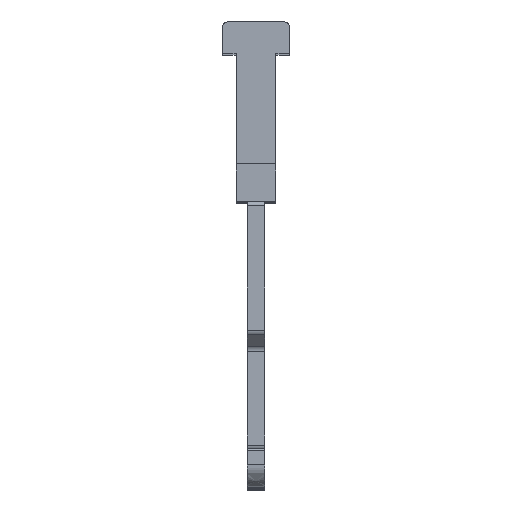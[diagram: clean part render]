
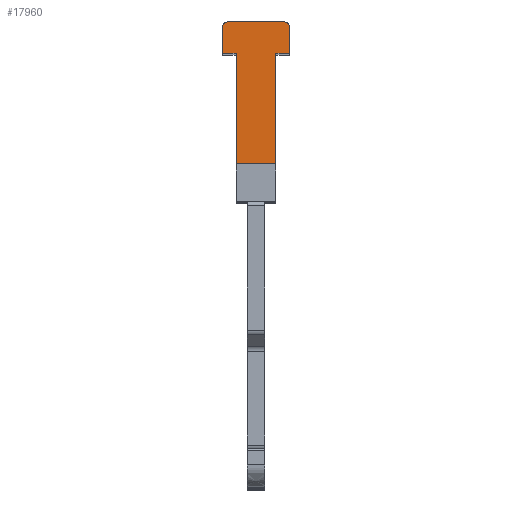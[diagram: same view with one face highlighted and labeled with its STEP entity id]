
A CAD part, top view. The second image highlights one B-rep face of the part: STEP entity #17960.
In plain terms, the highlighted planar face has unit normal (0, 0, 1).
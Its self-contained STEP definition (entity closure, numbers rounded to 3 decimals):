
#1180=CARTESIAN_POINT('',(-9.5,33.,50.55));
#1190=VERTEX_POINT('',#1180);
#1220=CARTESIAN_POINT('',(-9.5,33.2,50.55));
#1230=DIRECTION('',(0.,-1.,0.));
#1240=VECTOR('',#1230,1.);
#1250=LINE('',#1220,#1240);
#1260=CARTESIAN_POINT('',(-9.5,31.8,50.55));
#1270=VERTEX_POINT('',#1260);
#1280=EDGE_CURVE('',#1190,#1270,#1250,.T.);
#5870=CARTESIAN_POINT('',(0.,26.8,50.55));
#5880=DIRECTION('',(1.,0.,0.));
#5890=VECTOR('',#5880,1.);
#5900=LINE('',#5870,#5890);
#5910=CARTESIAN_POINT('',(-8.9,26.8,50.55));
#5920=VERTEX_POINT('',#5910);
#5930=CARTESIAN_POINT('',(-7.1,26.8,50.55));
#5940=VERTEX_POINT('',#5930);
#5950=EDGE_CURVE('',#5920,#5940,#5900,.T.);
#6380=CARTESIAN_POINT('',(-6.5,33.,50.55));
#6390=VERTEX_POINT('',#6380);
#6880=CARTESIAN_POINT('',(-6.5,31.8,50.55));
#6890=VERTEX_POINT('',#6880);
#6920=CARTESIAN_POINT('',(-6.5,33.2,50.55));
#6930=DIRECTION('',(0.,-1.,0.));
#6940=VECTOR('',#6930,1.);
#6950=LINE('',#6920,#6940);
#6960=EDGE_CURVE('',#6390,#6890,#6950,.T.);
#7190=CARTESIAN_POINT('',(-7.1,31.8,50.55));
#7200=VERTEX_POINT('',#7190);
#7230=CARTESIAN_POINT('',(-8.,31.8,50.55));
#7240=DIRECTION('',(-1.,0.,-0.));
#7250=VECTOR('',#7240,1.);
#7260=LINE('',#7230,#7250);
#7270=EDGE_CURVE('',#6890,#7200,#7260,.T.);
#17410=CARTESIAN_POINT('',(-8.9,33.2,50.55));
#17420=DIRECTION('',(0.,0.,-1.));
#17430=DIRECTION('',(0.,1.,0.));
#17440=AXIS2_PLACEMENT_3D('',#17410,#17420,#17430);
#17450=PLANE('',#17440);
#17460=ORIENTED_EDGE('',*,*,#7270,.F.);
#17470=CARTESIAN_POINT('',(-7.1,33.2,50.55));
#17480=DIRECTION('',(0.,-1.,0.));
#17490=VECTOR('',#17480,1.);
#17500=LINE('',#17470,#17490);
#17510=EDGE_CURVE('',#7200,#5940,#17500,.T.);
#17520=ORIENTED_EDGE('',*,*,#17510,.F.);
#17530=ORIENTED_EDGE('',*,*,#5950,.T.);
#17540=CARTESIAN_POINT('',(-8.9,33.2,50.55));
#17550=DIRECTION('',(0.,-1.,0.));
#17560=VECTOR('',#17550,1.);
#17570=LINE('',#17540,#17560);
#17580=CARTESIAN_POINT('',(-8.9,31.8,50.55));
#17590=VERTEX_POINT('',#17580);
#17600=EDGE_CURVE('',#17590,#5920,#17570,.T.);
#17610=ORIENTED_EDGE('',*,*,#17600,.T.);
#17620=CARTESIAN_POINT('',(-8.,31.8,50.55));
#17630=DIRECTION('',(1.,0.,0.));
#17640=VECTOR('',#17630,1.);
#17650=LINE('',#17620,#17640);
#17660=EDGE_CURVE('',#1270,#17590,#17650,.T.);
#17670=ORIENTED_EDGE('',*,*,#17660,.T.);
#17680=ORIENTED_EDGE('',*,*,#1280,.T.);
#17690=CARTESIAN_POINT('',(-9.3,33.,50.55));
#17700=DIRECTION('',(0.,0.,-1.));
#17710=DIRECTION('',(1.,0.,0.));
#17720=AXIS2_PLACEMENT_3D('',#17690,#17700,#17710);
#17730=CIRCLE('',#17720,0.2);
#17740=CARTESIAN_POINT('',(-9.3,33.2,50.55));
#17750=VERTEX_POINT('',#17740);
#17760=EDGE_CURVE('',#1190,#17750,#17730,.T.);
#17770=ORIENTED_EDGE('',*,*,#17760,.F.);
#17780=CARTESIAN_POINT('',(-8.,33.2,50.55));
#17790=DIRECTION('',(1.,0.,0.));
#17800=VECTOR('',#17790,1.);
#17810=LINE('',#17780,#17800);
#17820=CARTESIAN_POINT('',(-6.7,33.2,50.55));
#17830=VERTEX_POINT('',#17820);
#17840=EDGE_CURVE('',#17750,#17830,#17810,.T.);
#17850=ORIENTED_EDGE('',*,*,#17840,.F.);
#17860=CARTESIAN_POINT('',(-6.7,33.,50.55));
#17870=DIRECTION('',(0.,0.,-1.));
#17880=DIRECTION('',(1.,0.,0.));
#17890=AXIS2_PLACEMENT_3D('',#17860,#17870,#17880);
#17900=CIRCLE('',#17890,0.2);
#17910=EDGE_CURVE('',#17830,#6390,#17900,.T.);
#17920=ORIENTED_EDGE('',*,*,#17910,.F.);
#17930=ORIENTED_EDGE('',*,*,#6960,.F.);
#17940=EDGE_LOOP('',(#17930,#17920,#17850,#17770,#17680,#17670,#17610,
#17530,#17520,#17460));
#17950=FACE_OUTER_BOUND('',#17940,.T.);
#17960=ADVANCED_FACE('',(#17950),#17450,.F.);
